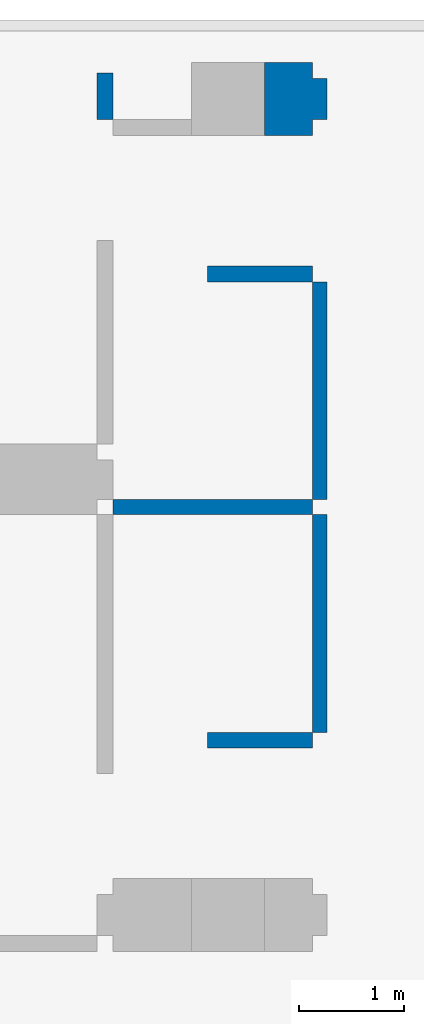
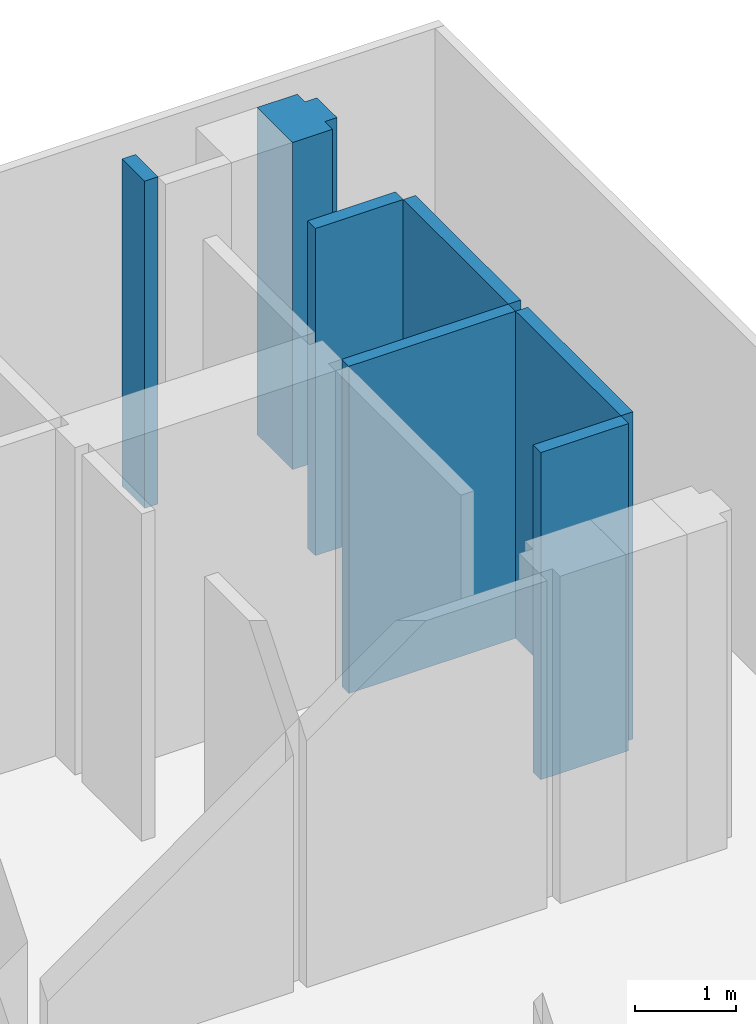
# One storey, part 3 of 4: 7 walls.
"""IFC4 building model written with IfcOpenShell, lengths in millimetres."""

from ifc_helpers import new_model, si_unit, frame, origin, place, context, project, spatial, triangles, element, save


model = new_model("IFC4")

# Units and contexts
model_context = context("Model", 3, precision=0.001, world=origin())
ifc_project = project(units=[si_unit("LENGTHUNIT", "METRE", prefix="MILLI"), si_unit("AREAUNIT", "SQUARE_METRE"), si_unit("VOLUMEUNIT", "CUBIC_METRE")], contexts=[model_context])

# Site, building, storey
site_placement = place(None, origin())
site = spatial("IfcSite", under=ifc_project, at=site_placement, Name="Site", CompositionType="ELEMENT")
building_placement = place(site_placement, origin())
building = spatial("IfcBuilding", under=site, at=building_placement, Name="INNOCEAN", CompositionType="ELEMENT")
storey_placement = place(building_placement, frame((0.0, 0.0, 59600.0)))
storey = spatial("IfcBuildingStorey", under=building, at=storey_placement, Name="F14", CompositionType="ELEMENT", Elevation=59600.0)

# Walls
wall_1_placement = place(storey_placement, origin())
element("IfcWall", 1, at=wall_1_placement, inside=storey, Name="F14_Walls_F14_072", context=model_context, shape_type="Tessellation", body=[
    triangles([(48568.5, 19018.1, 0.0), (47565.8, 19018.1, 0.0), (47565.8, 19018.1, 3950.0), (48568.5, 19018.1, 3950.0), (48568.5, 18865.7, 0.0), (48568.5, 18865.7, 3950.0), (47565.8, 18865.7, 0.0), (47565.8, 18865.7, 3950.0)], [[1, 2, 3], [1, 3, 4], [5, 1, 4], [5, 4, 6], [7, 5, 6], [7, 6, 8], [2, 7, 8], [2, 8, 3], [2, 1, 5], [2, 5, 7], [4, 3, 6], [6, 3, 8]], closed=True),
])
wall_2_placement = place(storey_placement, origin())
element("IfcWall", 2, at=wall_2_placement, inside=storey, Name="F14_Walls_F14_074", context=model_context, shape_type="Tessellation", body=[
    triangles([(48568.5, 19018.1, 0.0), (48708.1, 19018.1, 0.0), (48708.1, 19018.1, 3950.0), (48568.5, 19018.1, 3950.0), (48568.5, 21101.1, 0.0), (48568.5, 21101.1, 3950.0), (48708.1, 21101.1, 0.0), (48708.1, 21101.1, 3950.0)], [[1, 2, 3], [1, 3, 4], [5, 1, 4], [5, 4, 6], [7, 5, 6], [7, 6, 8], [2, 7, 8], [2, 8, 3], [5, 2, 1], [5, 7, 2], [3, 6, 4], [8, 6, 3]], closed=True),
])
wall_3_placement = place(storey_placement, origin())
element("IfcWall", 3, at=wall_3_placement, inside=storey, Name="F14_Walls_F14_076", context=model_context, shape_type="Tessellation", body=[
    triangles([(48568.5, 21240.8, 0.0), (48568.5, 21240.8, 3950.0), (48568.5, 21101.1, 3950.0), (48568.5, 21101.1, 0.0), (46664.5, 21101.1, 3950.0), (46664.5, 21101.1, 0.0), (46664.5, 21240.8, 3950.0), (46664.5, 21240.8, 0.0)], [[1, 2, 3], [4, 1, 3], [4, 3, 5], [6, 4, 5], [6, 5, 7], [8, 6, 7], [8, 7, 2], [1, 8, 2], [8, 1, 4], [8, 4, 6], [2, 7, 3], [3, 7, 5]], closed=True),
])
wall_4_placement = place(storey_placement, origin())
element("IfcWall", 4, at=wall_4_placement, inside=storey, Name="F14_Walls_F14_077", context=model_context, shape_type="Tessellation", body=[
    triangles([(48708.1, 21240.8, 0.0), (48708.1, 23323.8, 0.0), (48708.1, 23323.8, 3950.0), (48708.1, 21240.8, 3950.0), (48568.5, 21240.8, 0.0), (48568.5, 21240.8, 3950.0), (48568.5, 23323.8, 0.0), (48568.5, 23323.8, 3950.0)], [[1, 2, 3], [1, 3, 4], [5, 1, 4], [5, 4, 6], [7, 5, 6], [7, 6, 8], [2, 7, 8], [2, 8, 3], [7, 2, 1], [7, 1, 5], [3, 8, 4], [4, 8, 6]], closed=True),
])
wall_5_placement = place(storey_placement, origin())
element("IfcWall", 5, at=wall_5_placement, inside=storey, Name="F14_Walls_F14_079", context=model_context, shape_type="Tessellation", body=[
    triangles([(48568.5, 23323.8, 0.0), (48568.5, 23476.2, 0.0), (48568.5, 23476.2, 3950.0), (48568.5, 23323.8, 3950.0), (47565.8, 23323.8, 0.0), (47565.8, 23323.8, 3950.0), (47565.8, 23476.2, 0.0), (47565.8, 23476.2, 3950.0)], [[1, 2, 3], [1, 3, 4], [5, 1, 4], [5, 4, 6], [7, 5, 6], [7, 6, 8], [2, 7, 8], [2, 8, 3], [7, 2, 1], [7, 1, 5], [3, 8, 4], [4, 8, 6]], closed=True),
])
wall_6_placement = place(storey_placement, origin())
element("IfcWall", 6, at=wall_6_placement, inside=storey, Name="F14_Walls_F14_081", context=model_context, shape_type="Tessellation", body=[
    triangles([(48568.5, 25419.5, 0.0), (48111.6, 25419.5, 0.0), (48111.6, 25419.5, 3950.0), (48568.5, 25419.5, 3950.0), (48568.5, 25267.1, 0.0), (48568.5, 25267.1, 3950.0), (48708.1, 25267.1, 0.0), (48708.1, 25267.1, 3950.0), (48708.1, 24873.4, 3950.0), (48708.1, 24873.4, 0.0), (48568.5, 24873.4, 0.0), (48568.5, 24873.4, 3950.0), (48568.5, 24721.0, 0.0), (48568.5, 24721.0, 3950.0), (48111.6, 24721.0, 0.0), (48111.6, 24721.0, 3950.0), (48111.6, 24873.4, 0.0), (48111.6, 24873.4, 3950.0), (48111.6, 25267.1, 3950.0), (48111.6, 25267.1, 0.0)], [[1, 2, 3], [1, 3, 4], [5, 1, 4], [5, 4, 6], [7, 5, 6], [7, 6, 8], [7, 8, 9], [10, 7, 9], [11, 10, 9], [11, 9, 12], [13, 11, 12], [13, 12, 14], [15, 13, 14], [15, 14, 16], [17, 15, 16], [17, 16, 18], [17, 18, 19], [20, 17, 19], [2, 20, 19], [2, 19, 3], [7, 10, 11], [5, 7, 11], [17, 11, 13], [17, 13, 15], [20, 11, 17], [20, 5, 11], [2, 1, 5], [2, 5, 20], [9, 8, 12], [8, 6, 12], [12, 18, 14], [14, 18, 16], [12, 19, 18], [6, 19, 12], [4, 3, 6], [6, 3, 19]], closed=True),
])
wall_7_placement = place(storey_placement, origin())
element("IfcWall", 7, at=wall_7_placement, inside=storey, Name="F14_Walls_F14_082", context=model_context, shape_type="Tessellation", body=[
    triangles([(46512.2, 24873.4, 0.0), (46664.5, 24873.4, 0.0), (46664.5, 24873.4, 3950.0), (46512.2, 24873.4, 3950.0), (46512.2, 25317.9, 0.0), (46512.2, 25317.9, 3950.0), (46664.5, 25317.9, 0.0), (46664.5, 25317.9, 3950.0)], [[1, 2, 3], [1, 3, 4], [5, 1, 4], [5, 4, 6], [7, 5, 6], [7, 6, 8], [2, 7, 8], [2, 8, 3], [5, 2, 1], [5, 7, 2], [3, 6, 4], [8, 6, 3]], closed=True),
])

save(model, "model.ifc")
